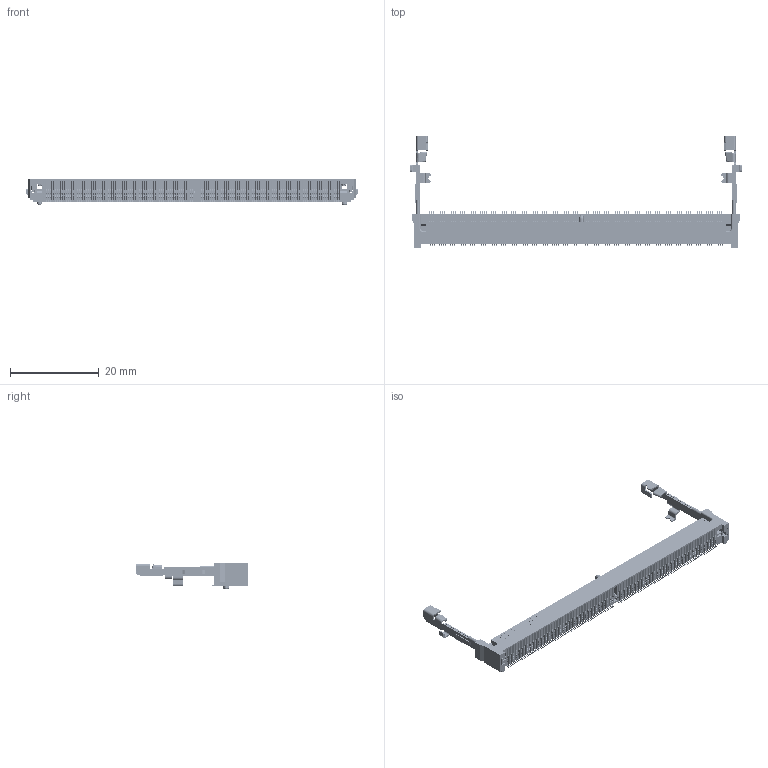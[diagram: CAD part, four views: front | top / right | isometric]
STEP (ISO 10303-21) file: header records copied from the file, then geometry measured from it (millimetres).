
FILE_DESCRIPTION((''),'2;1');
FILE_NAME('DDR5_52H_ASM_SW0001','2021-07-13T',('jiangjunguang'),(''),'PRO/ENGINEER BY PARAMETRIC TECHNOLOGY CORPORATION, 2009360','PRO/ENGINEER BY PARAMETRIC TECHNOLOGY CORPORATION, 2009360','');
FILE_SCHEMA(('CONFIG_CONTROL_DESIGN'));
Products named in the file (1): DDR5_52H_ASM_SW0001
Bounding box: 74.92 x 25.06 x 5.75 mm (x, y, z)
Volume: 1673.5 mm3; surface area: 4519 mm2
Topology: 1 solids, 1 shells, 17827 faces, 52330 edges, 33639 vertices
Faces by surface type: plane 12169, cylinder 5525, extrusion 94, bspline 24, torus 11, cone 4
Entity records: 595590 total; most frequent: CARTESIAN_POINT 113359, ORIENTED_EDGE 104660, DIRECTION 97958, EDGE_CURVE 52330, VECTOR 40998, LINE 40904, VERTEX_POINT 33639, AXIS2_PLACEMENT_3D 28480
